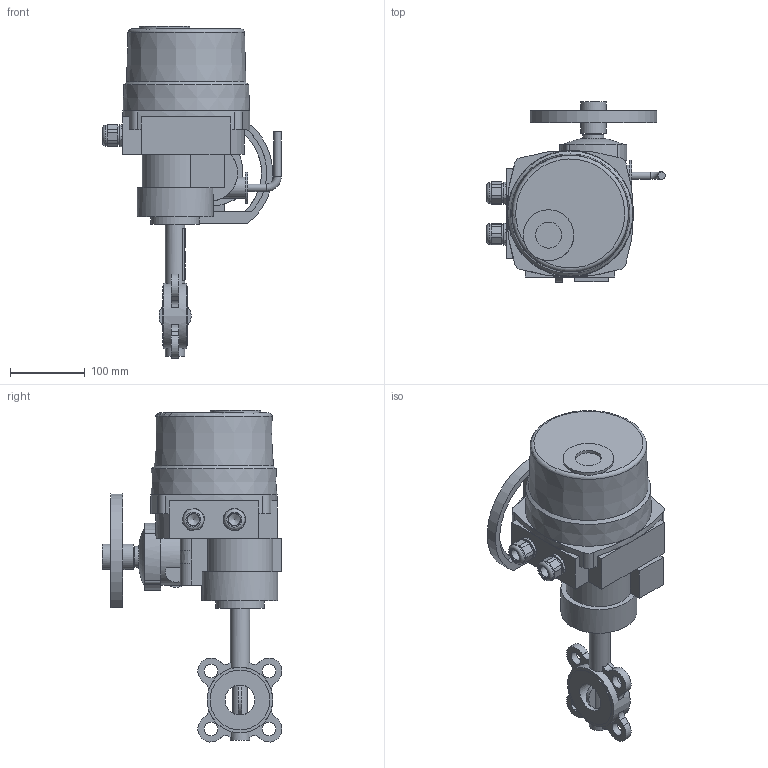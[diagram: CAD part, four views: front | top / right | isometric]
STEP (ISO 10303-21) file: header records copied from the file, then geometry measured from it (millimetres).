
FILE_DESCRIPTION(('STEP AP203'), '1');
FILE_NAME('青蜮铕 015WDN40+菹 QT5-1', '', ('UNSPECIFIED'), ('UNSPECIFIED'), 'ASCON STEP Converter 1.6', 'ASCON Math Kernel', '');
FILE_SCHEMA(('CONFIG_CONTROL_DESIGN'));
Length unit declared in the file: millimetre
Bounding box: 239.5 x 241.32 x 445.32 mm (x, y, z)
Volume: 5072498.8 mm3; surface area: 319287.6 mm2
Topology: 2 solids, 3 shells, 790 faces, 2240 edges, 1438 vertices
Faces by surface type: cylinder 503, plane 272, cone 9, torus 5, bspline 1
Full cylindrical faces by diameter (mm): 4.917 x4, 8 x4, 10 x2, 12.6 x1, 16 x2, 17 x2, 18 x4, 20 x2, 22.835 x2, 25 x2, 26 x2, 28 x3, 28.026 x1, 34 x2, 35 x2, 40 x2, 42 x1, 65 x1, 68 x1, 80 x2, 88 x1, 102 x1
Entity records: 33494 total; most frequent: CARTESIAN_POINT 5885, DIRECTION 4812, ORIENTED_EDGE 4291, EDGE_CURVE 2177, AXIS2_PLACEMENT_3D 1880, VERTEX_POINT 1432, CIRCLE 1090, LINE 1052
